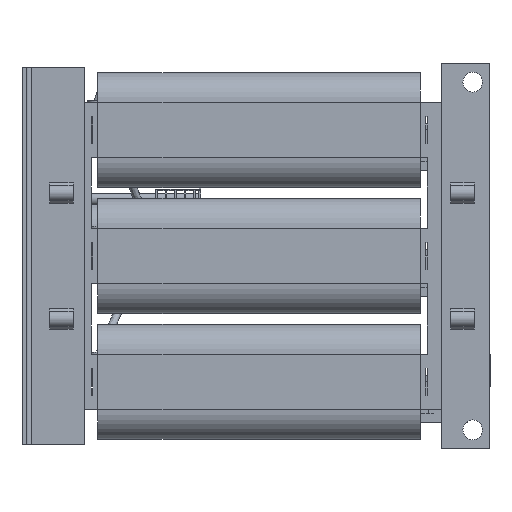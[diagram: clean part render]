
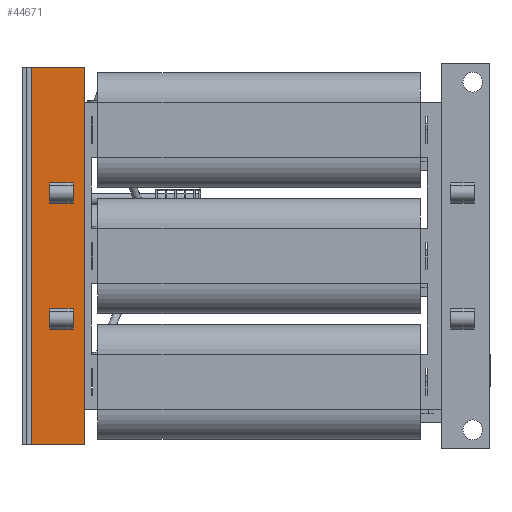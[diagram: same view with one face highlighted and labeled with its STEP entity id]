
A CAD part, front view. The second image highlights one B-rep face of the part: STEP entity #44671.
In plain terms, the highlighted planar face has unit normal (0, -1, 0).
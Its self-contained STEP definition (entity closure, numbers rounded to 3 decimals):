
#43079=CARTESIAN_POINT('',(20.771,194.192,122.));
#43080=VERTEX_POINT('',#43079);
#43089=CARTESIAN_POINT('',(50.771,194.192,122.));
#43090=VERTEX_POINT('',#43089);
#43091=CARTESIAN_POINT('',(50.771,194.192,122.));
#43092=DIRECTION('',(-1.0,0.0,0.0));
#43093=VECTOR('',#43092,30.);
#43094=LINE('',#43091,#43093);
#43095=EDGE_CURVE('',#43090,#43080,#43094,.T.);
#43152=CARTESIAN_POINT('',(20.771,194.192,108.));
#43153=VERTEX_POINT('',#43152);
#43161=CARTESIAN_POINT('',(50.771,194.192,108.));
#43162=VERTEX_POINT('',#43161);
#43169=CARTESIAN_POINT('',(20.771,194.192,108.));
#43170=DIRECTION('',(1.0,0.0,0.0));
#43171=VECTOR('',#43170,30.);
#43172=LINE('',#43169,#43171);
#43173=EDGE_CURVE('',#43153,#43162,#43172,.T.);
#43249=CARTESIAN_POINT('',(20.771,194.192,268.0));
#43250=VERTEX_POINT('',#43249);
#43258=CARTESIAN_POINT('',(50.771,194.192,268.0));
#43259=VERTEX_POINT('',#43258);
#43266=CARTESIAN_POINT('',(20.771,194.192,268.));
#43267=DIRECTION('',(1.0,0.0,0.0));
#43268=VECTOR('',#43267,30.);
#43269=LINE('',#43266,#43268);
#43270=EDGE_CURVE('',#43250,#43259,#43269,.T.);
#43304=CARTESIAN_POINT('',(20.771,194.192,282.));
#43305=VERTEX_POINT('',#43304);
#43312=CARTESIAN_POINT('',(50.771,194.192,282.));
#43313=VERTEX_POINT('',#43312);
#43314=CARTESIAN_POINT('',(50.771,194.192,282.));
#43315=DIRECTION('',(-1.0,0.0,0.0));
#43316=VECTOR('',#43315,30.);
#43317=LINE('',#43314,#43316);
#43318=EDGE_CURVE('',#43313,#43305,#43317,.T.);
#44188=CARTESIAN_POINT('',(-2.229,194.192,435.0));
#44189=VERTEX_POINT('',#44188);
#44207=CARTESIAN_POINT('',(-2.229,194.192,-45.0));
#44208=VERTEX_POINT('',#44207);
#44216=CARTESIAN_POINT('',(-2.229,194.192,-45.));
#44217=DIRECTION('',(0.0,0.0,1.0));
#44218=VECTOR('',#44217,480.);
#44219=LINE('',#44216,#44218);
#44220=EDGE_CURVE('',#44208,#44189,#44219,.T.);
#44456=CARTESIAN_POINT('',(65.771,194.192,-45.));
#44457=VERTEX_POINT('',#44456);
#44458=CARTESIAN_POINT('',(65.771,194.192,435.0));
#44459=VERTEX_POINT('',#44458);
#44460=CARTESIAN_POINT('',(65.771,194.192,-45.));
#44461=DIRECTION('',(0.0,0.0,1.0));
#44462=VECTOR('',#44461,480.0);
#44463=LINE('',#44460,#44462);
#44464=EDGE_CURVE('',#44457,#44459,#44463,.T.);
#44499=CARTESIAN_POINT('',(65.771,194.192,435.0));
#44500=DIRECTION('',(-1.0,0.0,0.0));
#44501=VECTOR('',#44500,68.);
#44502=LINE('',#44499,#44501);
#44503=EDGE_CURVE('',#44459,#44189,#44502,.T.);
#44547=CARTESIAN_POINT('',(-2.229,194.192,-45.0));
#44548=DIRECTION('',(1.0,0.0,0.0));
#44549=VECTOR('',#44548,68.);
#44550=LINE('',#44547,#44549);
#44551=EDGE_CURVE('',#44208,#44457,#44550,.T.);
#44560=CARTESIAN_POINT('',(25.771,194.192,195.));
#44561=DIRECTION('',(0.0,1.0,0.0));
#44562=DIRECTION('',(-1.0,0.0,0.0));
#44563=AXIS2_PLACEMENT_3D('',#44560,#44561,#44562);
#44564=PLANE('',#44563);
#44565=ORIENTED_EDGE('',*,*,#44220,.F.);
#44566=ORIENTED_EDGE('',*,*,#44551,.T.);
#44567=ORIENTED_EDGE('',*,*,#44464,.T.);
#44568=ORIENTED_EDGE('',*,*,#44503,.T.);
#44569=EDGE_LOOP('',(#44565,#44566,#44567,#44568));
#44570=FACE_OUTER_BOUND('',#44569,.T.);
#44571=CARTESIAN_POINT('',(50.771,194.192,288.0));
#44572=VERTEX_POINT('',#44571);
#44573=CARTESIAN_POINT('',(50.771,194.192,288.0));
#44574=DIRECTION('',(0.0,0.0,-1.0));
#44575=VECTOR('',#44574,6.);
#44576=LINE('',#44573,#44575);
#44577=EDGE_CURVE('',#44572,#43313,#44576,.T.);
#44578=ORIENTED_EDGE('',*,*,#44577,.T.);
#44579=ORIENTED_EDGE('',*,*,#43318,.T.);
#44580=CARTESIAN_POINT('',(20.771,194.192,288.0));
#44581=VERTEX_POINT('',#44580);
#44582=CARTESIAN_POINT('',(20.771,194.192,282.));
#44583=DIRECTION('',(0.0,0.0,1.0));
#44584=VECTOR('',#44583,6.);
#44585=LINE('',#44582,#44584);
#44586=EDGE_CURVE('',#43305,#44581,#44585,.T.);
#44587=ORIENTED_EDGE('',*,*,#44586,.T.);
#44588=CARTESIAN_POINT('',(20.771,194.192,288.0));
#44589=DIRECTION('',(1.0,0.0,0.0));
#44590=VECTOR('',#44589,30.);
#44591=LINE('',#44588,#44590);
#44592=EDGE_CURVE('',#44581,#44572,#44591,.T.);
#44593=ORIENTED_EDGE('',*,*,#44592,.T.);
#44594=EDGE_LOOP('',(#44578,#44579,#44587,#44593));
#44595=FACE_BOUND('',#44594,.T.);
#44596=CARTESIAN_POINT('',(20.771,194.192,262.0));
#44597=VERTEX_POINT('',#44596);
#44598=CARTESIAN_POINT('',(20.771,194.192,262.0));
#44599=DIRECTION('',(0.0,0.0,1.0));
#44600=VECTOR('',#44599,6.0);
#44601=LINE('',#44598,#44600);
#44602=EDGE_CURVE('',#44597,#43250,#44601,.T.);
#44603=ORIENTED_EDGE('',*,*,#44602,.T.);
#44604=ORIENTED_EDGE('',*,*,#43270,.T.);
#44605=CARTESIAN_POINT('',(50.771,194.192,262.0));
#44606=VERTEX_POINT('',#44605);
#44607=CARTESIAN_POINT('',(50.771,194.192,268.0));
#44608=DIRECTION('',(0.0,0.0,-1.0));
#44609=VECTOR('',#44608,6.0);
#44610=LINE('',#44607,#44609);
#44611=EDGE_CURVE('',#43259,#44606,#44610,.T.);
#44612=ORIENTED_EDGE('',*,*,#44611,.T.);
#44613=CARTESIAN_POINT('',(50.771,194.192,262.0));
#44614=DIRECTION('',(-1.0,0.0,0.0));
#44615=VECTOR('',#44614,30.);
#44616=LINE('',#44613,#44615);
#44617=EDGE_CURVE('',#44606,#44597,#44616,.T.);
#44618=ORIENTED_EDGE('',*,*,#44617,.T.);
#44619=EDGE_LOOP('',(#44603,#44604,#44612,#44618));
#44620=FACE_BOUND('',#44619,.T.);
#44621=CARTESIAN_POINT('',(50.771,194.192,128.0));
#44622=VERTEX_POINT('',#44621);
#44623=CARTESIAN_POINT('',(50.771,194.192,128.0));
#44624=DIRECTION('',(0.0,0.0,-1.0));
#44625=VECTOR('',#44624,6.);
#44626=LINE('',#44623,#44625);
#44627=EDGE_CURVE('',#44622,#43090,#44626,.T.);
#44628=ORIENTED_EDGE('',*,*,#44627,.T.);
#44629=ORIENTED_EDGE('',*,*,#43095,.T.);
#44630=CARTESIAN_POINT('',(20.771,194.192,128.0));
#44631=VERTEX_POINT('',#44630);
#44632=CARTESIAN_POINT('',(20.771,194.192,122.));
#44633=DIRECTION('',(0.0,0.0,1.0));
#44634=VECTOR('',#44633,6.);
#44635=LINE('',#44632,#44634);
#44636=EDGE_CURVE('',#43080,#44631,#44635,.T.);
#44637=ORIENTED_EDGE('',*,*,#44636,.T.);
#44638=CARTESIAN_POINT('',(20.771,194.192,128.0));
#44639=DIRECTION('',(1.0,0.0,0.0));
#44640=VECTOR('',#44639,30.);
#44641=LINE('',#44638,#44640);
#44642=EDGE_CURVE('',#44631,#44622,#44641,.T.);
#44643=ORIENTED_EDGE('',*,*,#44642,.T.);
#44644=EDGE_LOOP('',(#44628,#44629,#44637,#44643));
#44645=FACE_BOUND('',#44644,.T.);
#44646=CARTESIAN_POINT('',(20.771,194.192,102.));
#44647=VERTEX_POINT('',#44646);
#44648=CARTESIAN_POINT('',(20.771,194.192,102.));
#44649=DIRECTION('',(0.0,0.0,1.0));
#44650=VECTOR('',#44649,6.);
#44651=LINE('',#44648,#44650);
#44652=EDGE_CURVE('',#44647,#43153,#44651,.T.);
#44653=ORIENTED_EDGE('',*,*,#44652,.T.);
#44654=ORIENTED_EDGE('',*,*,#43173,.T.);
#44655=CARTESIAN_POINT('',(50.771,194.192,102.));
#44656=VERTEX_POINT('',#44655);
#44657=CARTESIAN_POINT('',(50.771,194.192,108.));
#44658=DIRECTION('',(0.0,0.0,-1.0));
#44659=VECTOR('',#44658,6.);
#44660=LINE('',#44657,#44659);
#44661=EDGE_CURVE('',#43162,#44656,#44660,.T.);
#44662=ORIENTED_EDGE('',*,*,#44661,.T.);
#44663=CARTESIAN_POINT('',(50.771,194.192,102.));
#44664=DIRECTION('',(-1.0,0.0,0.0));
#44665=VECTOR('',#44664,30.);
#44666=LINE('',#44663,#44665);
#44667=EDGE_CURVE('',#44656,#44647,#44666,.T.);
#44668=ORIENTED_EDGE('',*,*,#44667,.T.);
#44669=EDGE_LOOP('',(#44653,#44654,#44662,#44668));
#44670=FACE_BOUND('',#44669,.T.);
#44671=ADVANCED_FACE('',(#44570,#44595,#44620,#44645,#44670),#44564,.F.);
